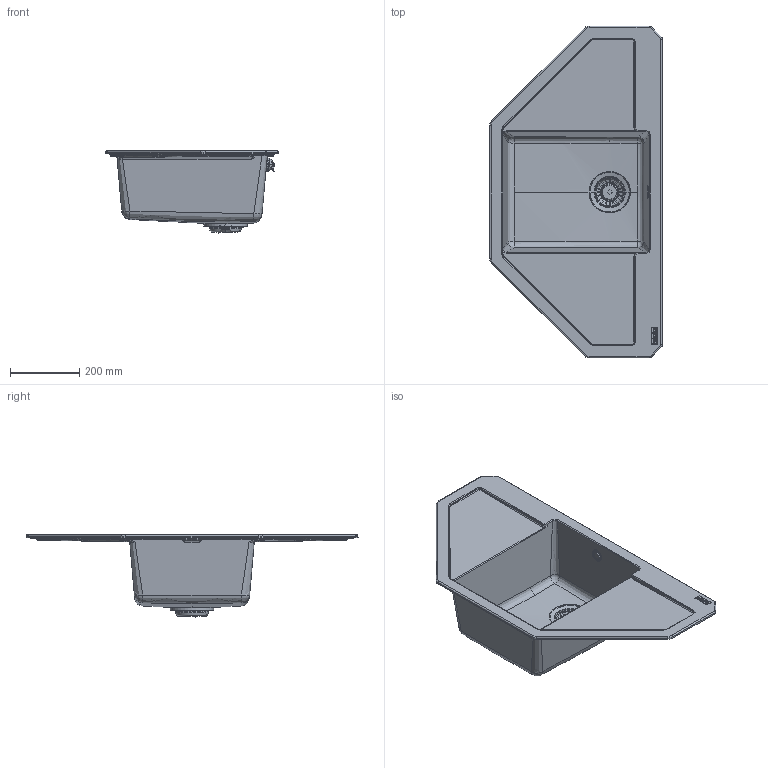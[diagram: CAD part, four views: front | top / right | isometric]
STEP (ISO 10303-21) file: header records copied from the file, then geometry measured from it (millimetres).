
FILE_DESCRIPTION(/* description */ (''),/* implementation_level */ '2;1');
FILE_NAME(/* name */ '3D001_Sinks_Maris_MRG-612-E',/* time_stamp */ '2024-07-30T17:11:04+02:00',/* author */ (''),/* organization */ (''),/* preprocessor_version */ 'ST-DEVELOPER v19.2',/* originating_system */ 'Rhino 8.8',/* authorisation */ '');
FILE_SCHEMA (('CONFIG_CONTROL_DESIGN'));
Length unit declared in the file: millimetre
Products named in the file (1): Document
Bounding box: 500 x 960 x 238.23 mm (x, y, z)
Volume: 5376127.2 mm3; surface area: 1353645 mm2
Topology: 7 solids, 10 shells, 1793 faces, 4744 edges, 2974 vertices
Faces by surface type: plane 906, bspline 579, cylinder 308
Entity records: 82547 total; most frequent: CARTESIAN_POINT 44817, ORIENTED_EDGE 9316, EDGE_CURVE 4700, DIRECTION 4642, VERTEX_POINT 2974, AXIS2_PLACEMENT_3D 2928, B_SPLINE_CURVE_WITH_KNOTS 2806, EDGE_LOOP 1866
